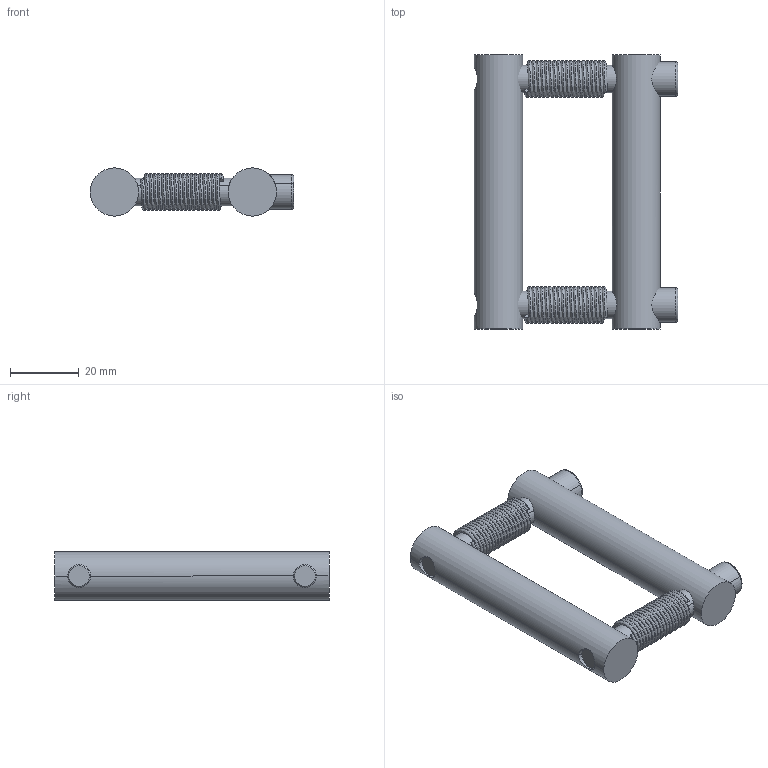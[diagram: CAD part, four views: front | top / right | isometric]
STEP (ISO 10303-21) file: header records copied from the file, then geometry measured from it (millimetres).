
FILE_DESCRIPTION (( 'STEP AP214' ), '1' );
FILE_NAME ('10564_STOSTZ80D.STEP', '2016-12-01T16:34:55', ( '' ), ( '' ), 'SwSTEP 2.0', 'SolidWorks 2016', '' );
FILE_SCHEMA (( 'AUTOMOTIVE_DESIGN' ));
Length unit declared in the file: millimetre
Products named in the file (5): 10564_unteresteil; 10563_spirale; 10564_STOSTZ80D; 10564_oberesteil; 10563_schraube
Assembly tree (6 placements, depth 2):
  10564_STOSTZ80D
    10564_oberesteil
    10564_unteresteil
    10563_schraube  x2
    10563_spirale  x2
Bounding box: 59 x 79.5 x 14 mm (x, y, z)
Volume: 29271.7 mm3; surface area: 16194.3 mm2
Topology: 6 solids, 6 shells, 70 faces, 160 edges, 100 vertices
Faces by surface type: plane 30, cylinder 24, bspline 12, cone 4
Entity records: 8464 total; most frequent: CARTESIAN_POINT 7165, DIRECTION 222, ORIENTED_EDGE 216, EDGE_CURVE 108, AXIS2_PLACEMENT_3D 87, VERTEX_POINT 66, EDGE_LOOP 50, LINE 48
